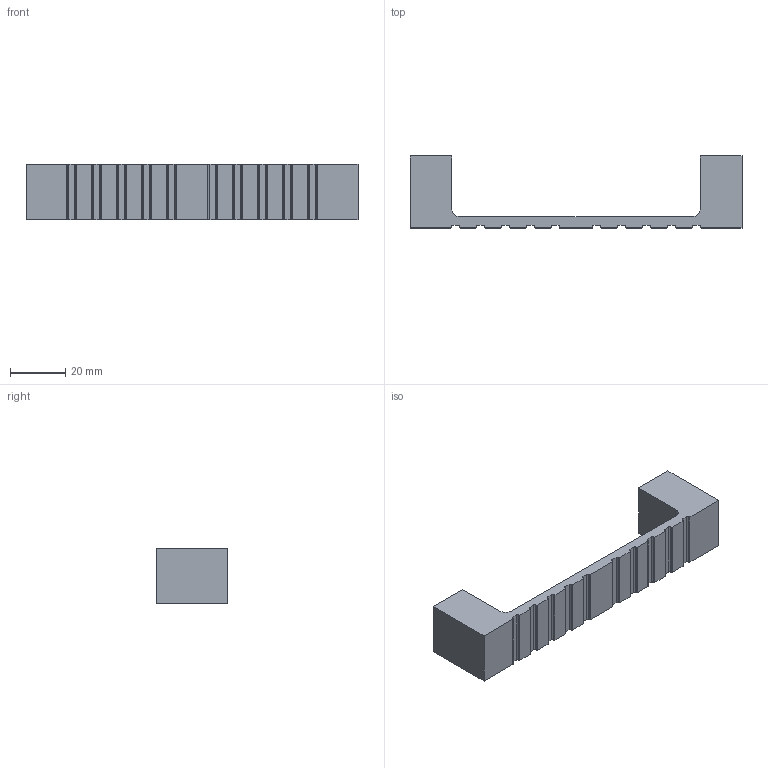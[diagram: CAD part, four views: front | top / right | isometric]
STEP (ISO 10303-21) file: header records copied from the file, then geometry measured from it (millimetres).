
FILE_DESCRIPTION( ( '' ), '1' );
FILE_NAME( 'D:/1.AUTOCAD EXPORT/Group 10/sheet_10_1/9080851.stp', '2013-10-18T08:59:29', ( '' ), ( '' ), ' ', ' ', ' ' );
FILE_SCHEMA( ( 'automotive_design' ) );
Length unit declared in the file: millimetre
Products named in the file (1): 1
Bounding box: 120 x 26 x 20 mm (x, y, z)
Volume: 22092.3 mm3; surface area: 9370.1 mm2
Topology: 1 solids, 1 shells, 98 faces, 282 edges, 188 vertices
Faces by surface type: plane 52, cylinder 46
Entity records: 6396 total; most frequent: DIRECTION 572, STYLED_ITEM 569, PRESENTATION_STYLE_ASSIGNMENT 569, CARTESIAN_POINT 569, COLOUR_RGB 569, ORIENTED_EDGE 564, EDGE_CURVE 282, CURVE_STYLE 282
